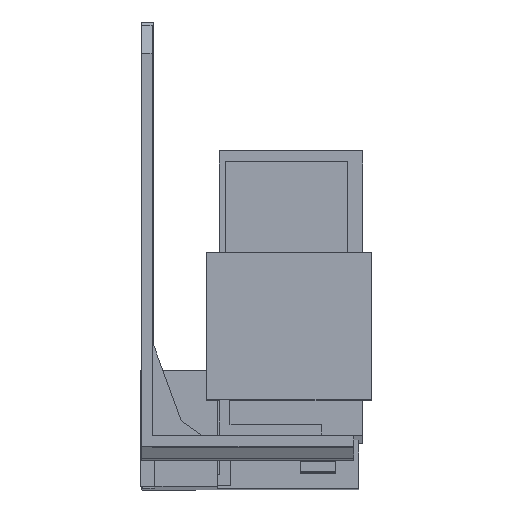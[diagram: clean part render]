
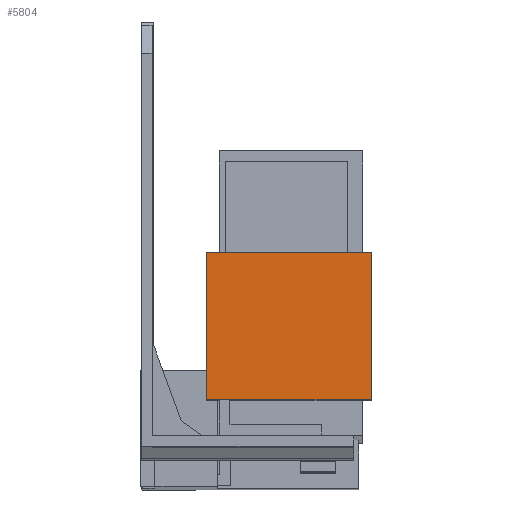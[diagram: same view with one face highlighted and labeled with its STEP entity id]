
A CAD part, front view. The second image highlights one B-rep face of the part: STEP entity #5804.
In plain terms, the highlighted planar face has unit normal (0, -1, 0.003).
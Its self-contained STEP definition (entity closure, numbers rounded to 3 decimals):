
#192 = AXIS2_PLACEMENT_3D ( 'NONE', #603, #615, #614 ) ;
#603 = CARTESIAN_POINT ( 'NONE',  ( 9.3, -29.009, -40.322 ) ) ;
#606 = PLANE ( 'NONE',  #192 ) ;
#614 = DIRECTION ( 'NONE',  ( -1., 0., 0. ) ) ;
#615 = DIRECTION ( 'NONE',  ( 0., -1., 0.003 ) ) ;
#1174 = VERTEX_POINT ( 'NONE', #7455 ) ;
#1177 = VERTEX_POINT ( 'NONE', #7604 ) ;
#1180 = VERTEX_POINT ( 'NONE', #7614 ) ;
#1181 = VERTEX_POINT ( 'NONE', #7613 ) ;
#2401 = LINE ( 'NONE', #3807, #2402 ) ;
#2402 = VECTOR ( 'NONE', #3808, 1000. ) ;
#2688 = LINE ( 'NONE', #4163, #2689 ) ;
#2689 = VECTOR ( 'NONE', #4164, 1000. ) ;
#2724 = LINE ( 'NONE', #4203, #2725 ) ;
#2725 = VECTOR ( 'NONE', #4204, 1000. ) ;
#2794 = LINE ( 'NONE', #4299, #2795 ) ;
#2795 = VECTOR ( 'NONE', #4300, 1000. ) ;
#3807 = CARTESIAN_POINT ( 'NONE',  ( 9.3, -28.952, -19.322 ) ) ;
#3808 = DIRECTION ( 'NONE',  ( 1., 0., 0. ) ) ;
#4163 = CARTESIAN_POINT ( 'NONE',  ( 32.7, -29.009, -40.322 ) ) ;
#4164 = DIRECTION ( 'NONE',  ( 0., 0.003, 1. ) ) ;
#4203 = CARTESIAN_POINT ( 'NONE',  ( 9.3, -29.009, -40.322 ) ) ;
#4204 = DIRECTION ( 'NONE',  ( 0., 0.003, 1. ) ) ;
#4299 = CARTESIAN_POINT ( 'NONE',  ( 9.3, -29.009, -40.322 ) ) ;
#4300 = DIRECTION ( 'NONE',  ( 1., 0., 0. ) ) ;
#4861 = ORIENTED_EDGE ( 'NONE', *, *, #6161, .F. ) ;
#4862 = ORIENTED_EDGE ( 'NONE', *, *, #6341, .F. ) ;
#4863 = ORIENTED_EDGE ( 'NONE', *, *, #6382, .T. ) ;
#4864 = ORIENTED_EDGE ( 'NONE', *, *, #6322, .T. ) ;
#5198 = EDGE_LOOP ( 'NONE', ( #4861, #4862, #4863, #4864 ) ) ;
#5423 = FACE_OUTER_BOUND ( 'NONE', #5198, .T. ) ;
#5804 = ADVANCED_FACE ( 'NONE', ( #5423 ), #606, .T. ) ;
#6161 = EDGE_CURVE ( 'NONE', #1177, #1174, #2401, .T. ) ;
#6322 = EDGE_CURVE ( 'NONE', #1180, #1174, #2688, .T. ) ;
#6341 = EDGE_CURVE ( 'NONE', #1181, #1177, #2724, .T. ) ;
#6382 = EDGE_CURVE ( 'NONE', #1181, #1180, #2794, .T. ) ;
#7455 = CARTESIAN_POINT ( 'NONE',  ( 32.7, -28.952, -19.322 ) ) ;
#7604 = CARTESIAN_POINT ( 'NONE',  ( 9.3, -28.952, -19.322 ) ) ;
#7613 = CARTESIAN_POINT ( 'NONE',  ( 9.3, -29.009, -40.322 ) ) ;
#7614 = CARTESIAN_POINT ( 'NONE',  ( 32.7, -29.009, -40.322 ) ) ;
